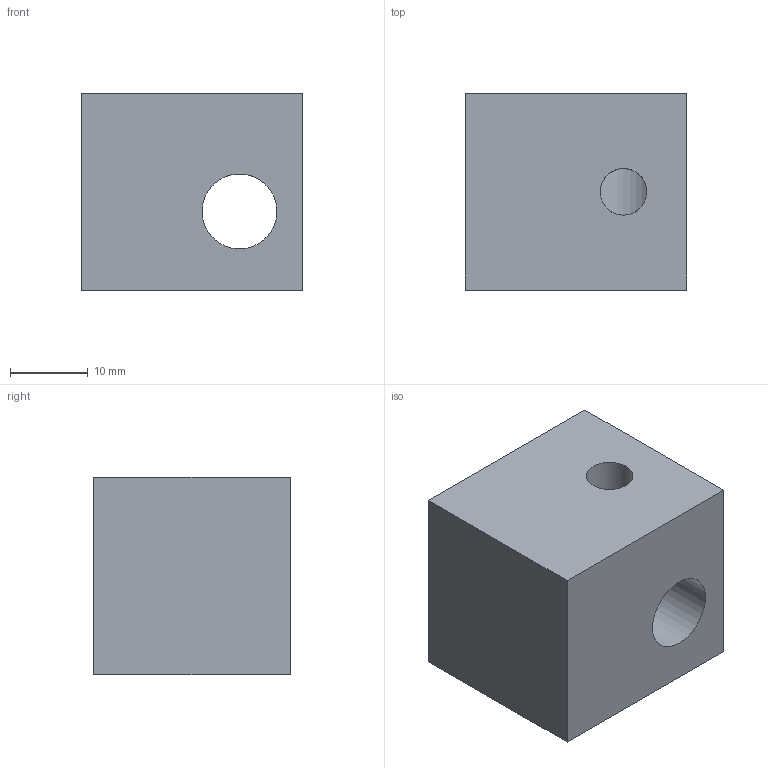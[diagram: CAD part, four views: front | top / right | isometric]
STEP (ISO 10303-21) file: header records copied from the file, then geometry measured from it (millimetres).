
FILE_DESCRIPTION(('FreeCAD Model'),'2;1');
FILE_NAME('Open CASCADE Shape Model','2026-10-06T09:33:39',('FreeCAD'),( 'FreeCAD'),'Open CASCADE STEP processor 7.8','FreeCAD','Unknown');
FILE_SCHEMA(('AUTOMOTIVE_DESIGN { 1 0 10303 214 1 1 1 1 }'));
Length unit declared in the file: millimetre
Products named in the file (1): Open CASCADE STEP translator 7.8 92
Bounding box: 28.46 x 25.24 x 25.4 mm (x, y, z)
Volume: 16108.4 mm3; surface area: 4929.4 mm2
Topology: 1 solids, 1 shells, 9 faces, 25 edges, 17 vertices
Faces by surface type: plane 6, cylinder 3
Full cylindrical faces by diameter (mm): 6 x2, 9.625 x1
Entity records: 547 total; most frequent: CARTESIAN_POINT 303, ORIENTED_EDGE 50, DIRECTION 42, EDGE_CURVE 25, VERTEX_POINT 17, LINE 16, VECTOR 16, AXIS2_PLACEMENT_3D 13
